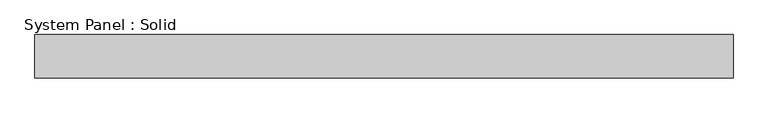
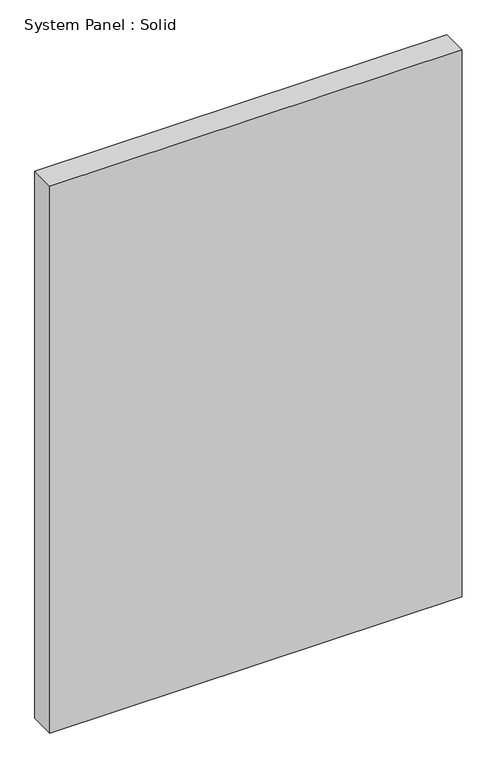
"""IFC4 building model written with IfcOpenShell, lengths in millimetres: plate geometry, System Panel : Solid."""

from ifc_helpers import new_model, si_unit, origin, origin_with_axes, place, context, project, spatial, polyline, outline, extrude, source, transform, mapped, element, save


def system_panel_solid_f4fb4711(model_context):
    return source(origin(), model_context, "Body", "SweptSolid", [
        extrude(outline(polyline([(509.5875001, -44.45), (-509.5875001, -44.45), (-509.5875001, 19.05), (509.5875001, 19.05), (509.5875001, -44.45)])), origin_with_axes(), (0.0, 0.0, 1.0), 1428.75),
    ])


if __name__ == "__main__":
    model = new_model("IFC4")
    model_context = context("Model", 3, world=origin())
    ifc_project = project(units=[si_unit("LENGTHUNIT", "METRE", prefix="MILLI")], contexts=[model_context])
    site = spatial("IfcSite", under=ifc_project)
    building = spatial("IfcBuilding", under=site)
    placement = place(None, origin())
    system_panel_solid_shape = system_panel_solid_f4fb4711(model_context)
    element("IfcPlate", 1, ObjectType="System Panel : Solid", at=placement, inside=building, context=model_context, shape_type="MappedRepresentation", body=[
        mapped(system_panel_solid_shape, transform((0.0, 0.0, 0.0), x_axis=(1.0, 0.0, 0.0), y_axis=(0.0, 1.0, 0.0), z_axis=(0.0, 0.0, 1.0))),
    ])
    save(model, "model.ifc")
